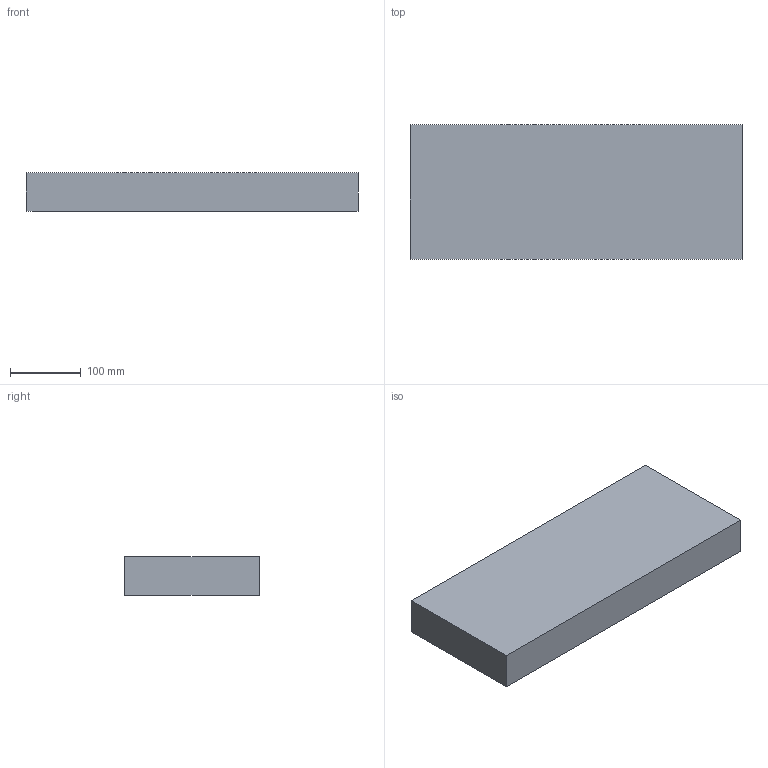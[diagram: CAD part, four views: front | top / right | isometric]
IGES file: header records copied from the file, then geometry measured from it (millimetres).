
Start section: C
Global section: file name: 2435-lid_internal_tub.igs; native system: By Siemens PLM Incorporated; preprocessor: XPlus GENERIC/IGES 16.0.42; author: Author; organization: Title; date: 20150218.104409; units: millimetre
Bounding box: 469.9 x 190.5 x 53.98 mm (x, y, z)
Surface area: 315684.2 mm2 (no closed solid volume)
Topology: 0 solids, 0 shells, 110 faces, 498 edges, 486 vertices
Faces by surface type: bspline 110
